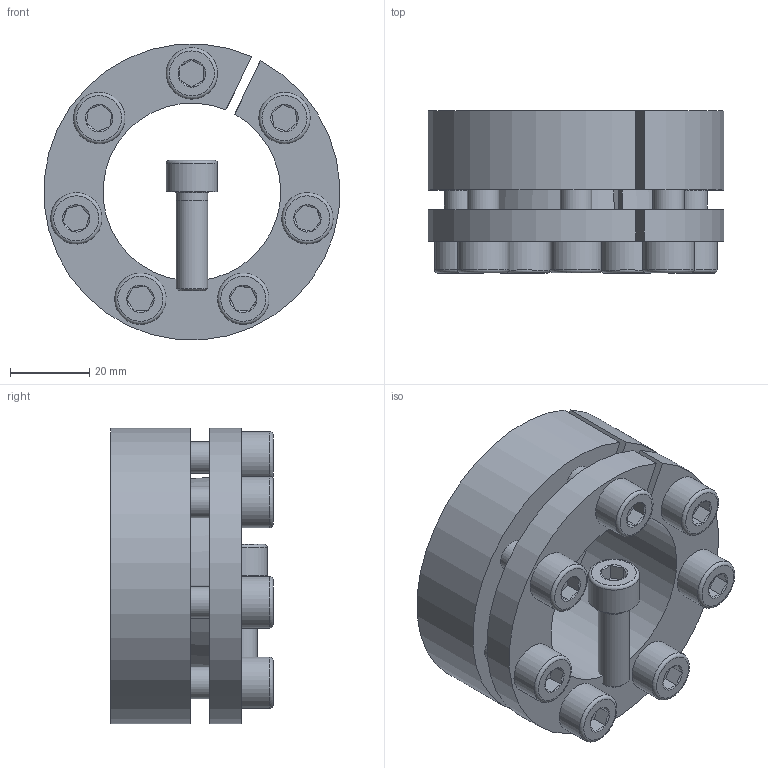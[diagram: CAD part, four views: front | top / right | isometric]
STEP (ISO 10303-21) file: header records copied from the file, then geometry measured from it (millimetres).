
FILE_DESCRIPTION( ( 'Unknown' ), '1' );
FILE_NAME( 'C:/Dokumente und Einstellungen/Sven/Desktop/homepage/cad - homepage/KBS13/KBS 13 - 45 x 75.stp', 'Unknown', ( 'Unknown' ), ( 'Unknown' ), 'XStep 1.0', 'Unknown', ' ' );
FILE_SCHEMA( ( 'automotive_design' ) );
Length unit declared in the file: millimetre
Products named in the file (3): Assem1; KBS 13 - 45 x 75; ISO EN DIN 4762 M8x25
Bounding box: 74.81 x 41 x 74.82 mm (x, y, z)
Volume: 156881.3 mm3; surface area: 63998.1 mm2
Topology: 10 solids, 10 shells, 252 faces, 516 edges, 316 vertices
Faces by surface type: plane 110, cylinder 66, cone 60, torus 16
Full cylindrical faces by diameter (mm): 7 x8, 8 x44, 13 x8
Entity records: 1700 total; most frequent: CARTESIAN_POINT 282, DIRECTION 258, ORIENTED_EDGE 186, AXIS2_PLACEMENT_3D 115, EDGE_LOOP 104, EDGE_CURVE 93, FACE_OUTER_BOUND 71, VERTEX_POINT 71
